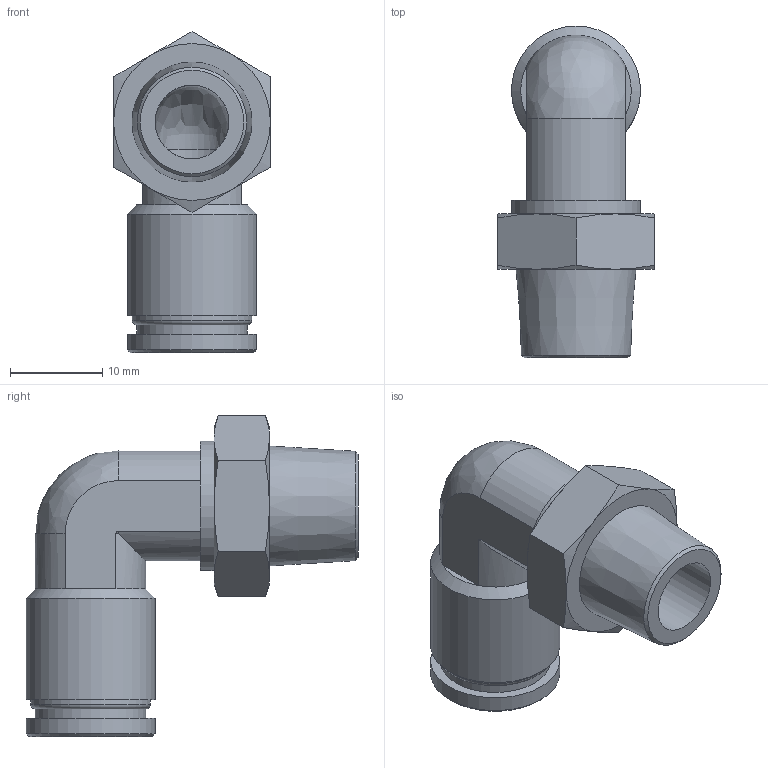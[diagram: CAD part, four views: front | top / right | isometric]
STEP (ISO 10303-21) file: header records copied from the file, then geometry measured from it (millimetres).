
FILE_DESCRIPTION(/* description */ (''),/* implementation_level */ '2;1');
FILE_NAME(/* name */ 'LXH21 0010 B2.stp',/* time_stamp */ '2026-05-01T12:27:30+02:00',/* author */ ('freju'),/* organization */ (''),/* preprocessor_version */ 'ST-DEVELOPER v20.1',/* originating_system */ 'Autodesk Inventor 2026',/* authorisation */ '');
FILE_SCHEMA (('AUTOMOTIVE_DESIGN { 1 0 10303 214 3 1 1 }'));
Length unit declared in the file: millimetre
Products named in the file (1): LXH21 0010 B2
Bounding box: 17 x 36 x 34.81 mm (x, y, z)
Volume: 4210.4 mm3; surface area: 4130.9 mm2
Topology: 1 solids, 1 shells, 51 faces, 116 edges, 69 vertices
Faces by surface type: plane 18, cone 16, cylinder 12, bspline 4, torus 1
Full cylindrical faces by diameter (mm): 8 x2, 10 x1, 12 x1, 13 x1, 14 x3
Entity records: 1471 total; most frequent: CARTESIAN_POINT 337, DIRECTION 242, ORIENTED_EDGE 224, EDGE_CURVE 112, AXIS2_PLACEMENT_3D 106, VERTEX_POINT 69, EDGE_LOOP 59, CIRCLE 56
